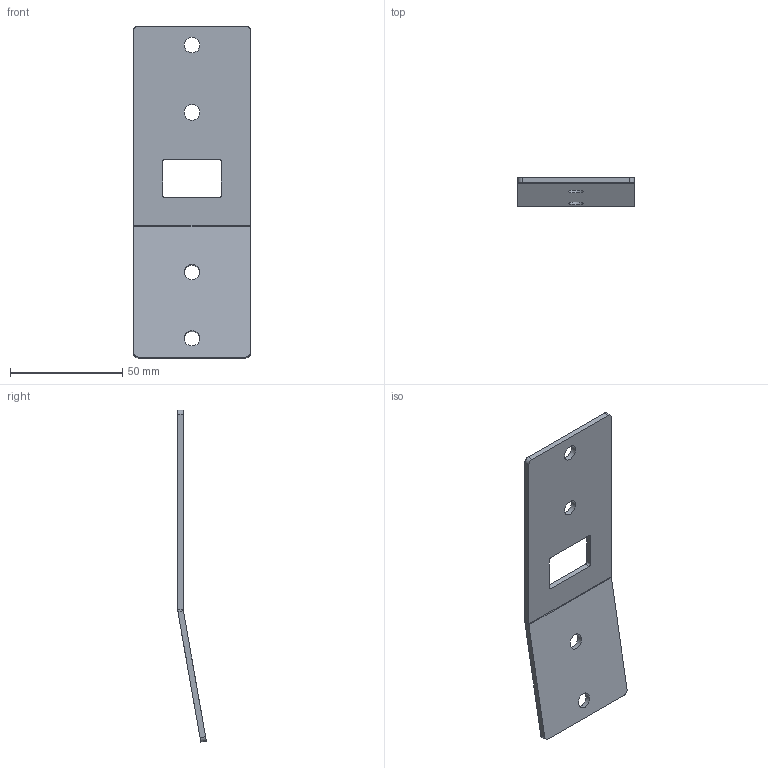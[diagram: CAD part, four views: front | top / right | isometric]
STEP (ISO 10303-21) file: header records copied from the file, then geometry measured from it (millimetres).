
FILE_DESCRIPTION(/* description */ (''),/* implementation_level */ '2;1');
FILE_NAME(/* name */ 'LB VS 10.stp',/* time_stamp */ '2024-10-17T13:45:22+02:00',/* author */ ('d.streicher'),/* organization */ (''),/* preprocessor_version */ 'ST-DEVELOPER v20',/* originating_system */ 'Autodesk Inventor 2025',/* authorisation */ '');
FILE_SCHEMA (('AUTOMOTIVE_DESIGN { 1 0 10303 214 3 1 1 }'));
Length unit declared in the file: millimetre
Products named in the file (1): LB VS black 10°
Bounding box: 52 x 12.79 x 148.1 mm (x, y, z)
Volume: 17845.1 mm3; surface area: 15702 mm2
Topology: 1 solids, 1 shells, 30 faces, 76 edges, 48 vertices
Faces by surface type: plane 16, cylinder 14
Full cylindrical faces by diameter (mm): 7 x4
Entity records: 1006 total; most frequent: DIRECTION 166, CARTESIAN_POINT 155, ORIENTED_EDGE 152, EDGE_CURVE 76, AXIS2_PLACEMENT_3D 59, LINE 48, VECTOR 48, VERTEX_POINT 48
